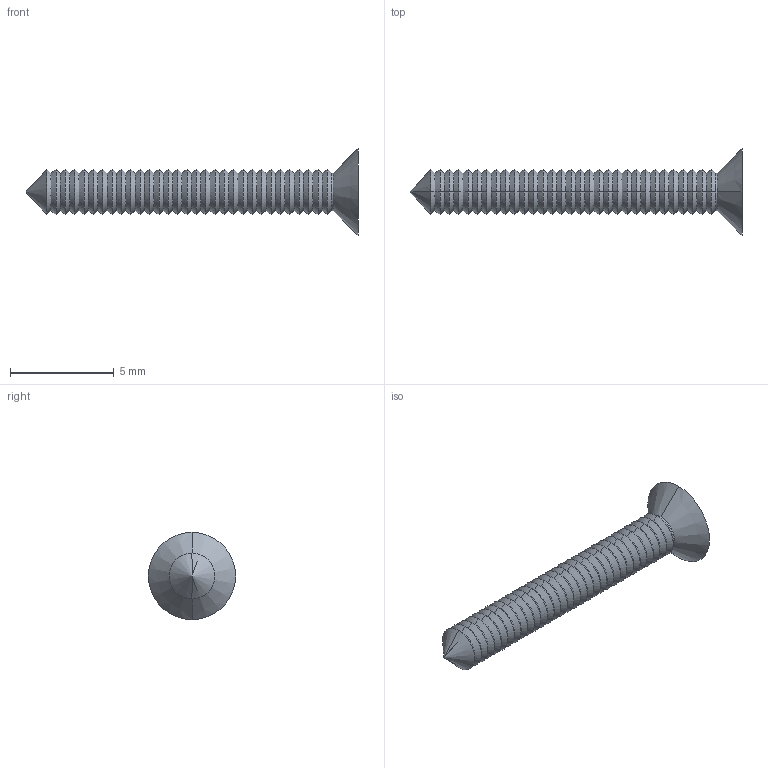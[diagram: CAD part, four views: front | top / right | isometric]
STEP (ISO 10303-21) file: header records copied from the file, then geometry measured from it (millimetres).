
FILE_DESCRIPTION (( 'STEP AP214' ), '1' );
FILE_NAME ('Cargol 2,2x16 PP80.STEP', '2018-01-16T01:53:27', ( 'aaa' ), ( '' ), 'SwSTEP 2.0', 'SolidWorks 2013', '' );
FILE_SCHEMA (( 'AUTOMOTIVE_DESIGN' ));
Length unit declared in the file: millimetre
Products named in the file (1): Cargol 2,2x16 PP80
Bounding box: 16 x 4.2 x 4.2 mm (x, y, z)
Volume: 53.2 mm3; surface area: 153.5 mm2
Topology: 1 solids, 1 shells, 142 faces, 294 edges, 153 vertices
Faces by surface type: cone 126, plane 14, cylinder 2
Entity records: 3658 total; most frequent: DIRECTION 706, CARTESIAN_POINT 588, ORIENTED_EDGE 584, EDGE_CURVE 292, AXIS2_PLACEMENT_3D 271, VECTOR 164, LINE 164, VERTEX_POINT 153
